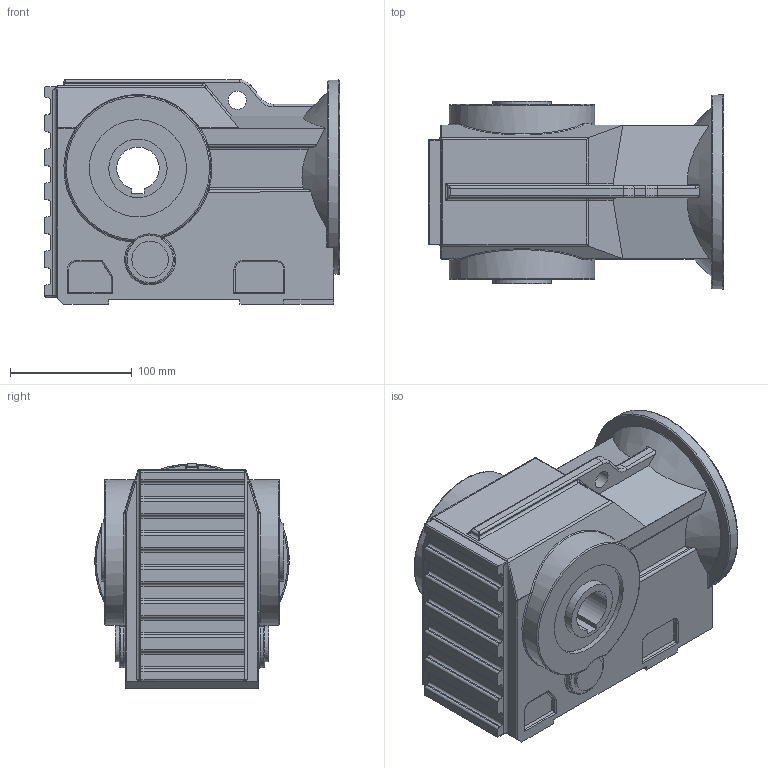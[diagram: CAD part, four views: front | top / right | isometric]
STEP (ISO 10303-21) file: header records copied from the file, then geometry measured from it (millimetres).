
FILE_DESCRIPTION((''),'2;1');
FILE_NAME('F:\PAWEŁ\ZLECENIA\2011 DualSystem\Przekładnie DK\001 Modele\DKAB40_\DK_40_STEP\DK_A_40.stp','2012-06-26T16:02:14',('admin'),(''),'Autodesk Inventor 2009','Autodesk Inventor 2009','');
FILE_SCHEMA(('AUTOMOTIVE_DESIGN { 1 0 10303 214 1 1 1 1 }'));
Length unit declared in the file: millimetre
Products named in the file (1): DK_A_40
Bounding box: 243 x 159.96 x 185 mm (x, y, z)
Volume: 4532474.7 mm3; surface area: 227228.1 mm2
Topology: 1 solids, 1 shells, 374 faces, 906 edges, 539 vertices
Faces by surface type: cylinder 151, plane 98, bspline 68, torus 50, sphere 6, cone 1
Full cylindrical faces by diameter (mm): 8.376 x4, 15 x1, 30 x1, 48 x1, 80 x1, 110 x1, 160 x1
Entity records: 13881 total; most frequent: CARTESIAN_POINT 5307, DIRECTION 1816, ORIENTED_EDGE 1758, EDGE_CURVE 879, AXIS2_PLACEMENT_3D 709, VERTEX_POINT 538, EDGE_LOOP 409, VECTOR 398
